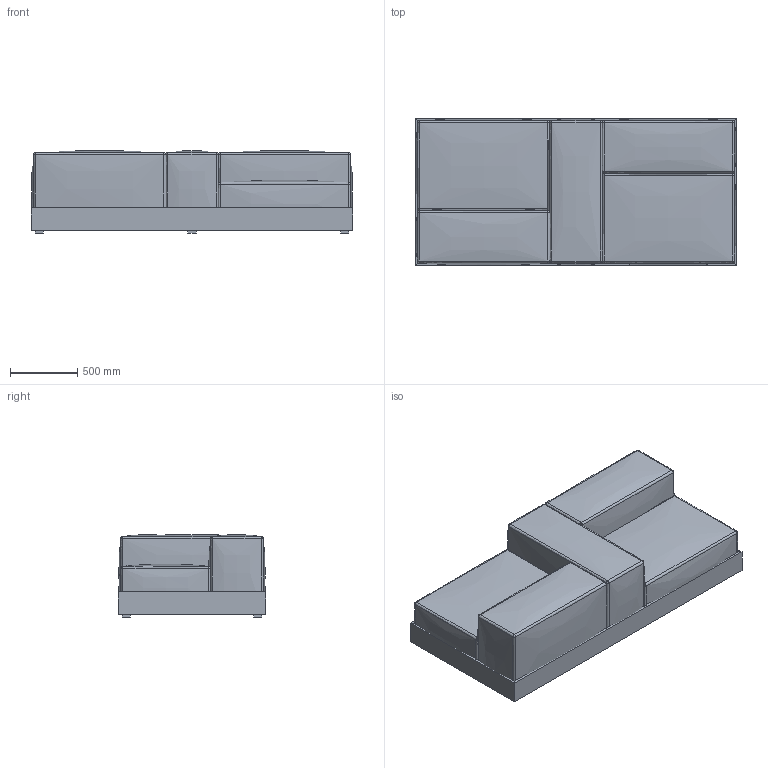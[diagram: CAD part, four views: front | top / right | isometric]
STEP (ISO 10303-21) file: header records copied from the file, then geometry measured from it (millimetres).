
FILE_DESCRIPTION(/* description */ (''),/* implementation_level */ '2;1');
FILE_NAME(/* name */ 'Polp1 240 blc vis a vis.step',/* time_stamp */ '2024-01-07T10:06:56+01:00',/* author */ (''),/* organization */ (''),/* preprocessor_version */ 'ST-DEVELOPER v20',/* originating_system */ 'Autodesk Translation Framework v12.14.0.127',/* authorisation */ '');
FILE_SCHEMA (('AUTOMOTIVE_DESIGN { 1 0 10303 214 3 1 1 }'));
Length unit declared in the file: millimetre
Products named in the file (6): Polp1 240 blc vis a vis; Component1; Component2; Component5; Component9; Component10
Assembly tree (5 placements, depth 2):
  Polp1 240 blc vis a vis
    Component1
    Component2
    Component5
    Component9
    Component10
Bounding box: 2400 x 1100 x 615 mm (x, y, z)
Volume: 1198195644.6 mm3; surface area: 19701237.2 mm2
Topology: 21 solids, 21 shells, 226 faces, 432 edges, 248 vertices
Faces by surface type: plane 105, bspline 77, sphere 40, cylinder 4
Entity records: 14656 total; most frequent: CARTESIAN_POINT 10325, ORIENTED_EDGE 864, DIRECTION 760, EDGE_CURVE 432, AXIS2_PLACEMENT_3D 280, VERTEX_POINT 248, FACE_OUTER_BOUND 226, EDGE_LOOP 226
